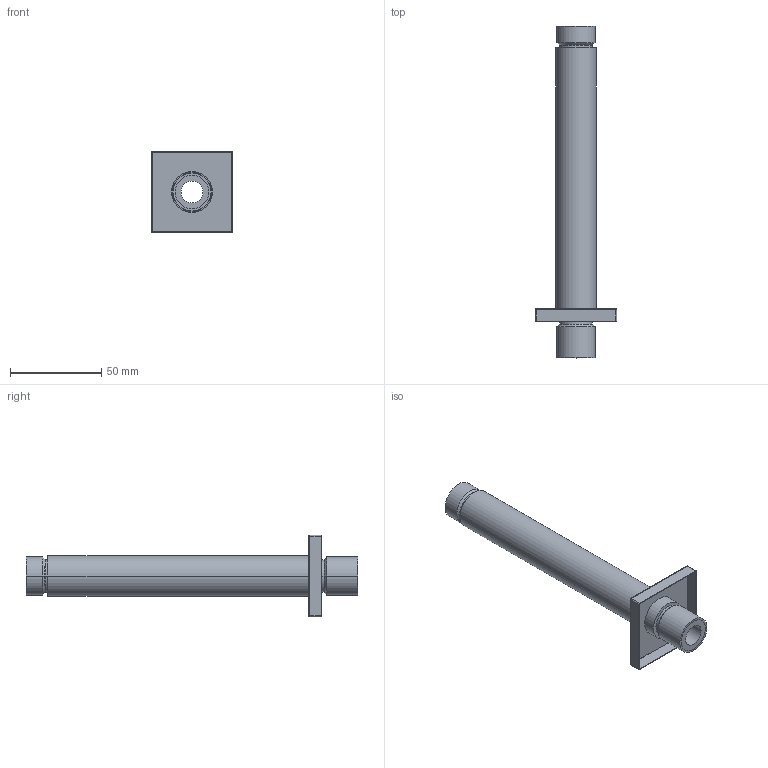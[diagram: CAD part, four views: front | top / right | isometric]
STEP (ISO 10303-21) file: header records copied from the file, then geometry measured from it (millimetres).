
FILE_DESCRIPTION((''),'2;1');
FILE_NAME('7524_BRACCIO_DOCCIA_SOFFITTO','2015-05-04T',('ivanv'),(''),'PRO/ENGINEER BY PARAMETRIC TECHNOLOGY CORPORATION, 2012130','PRO/ENGINEER BY PARAMETRIC TECHNOLOGY CORPORATION, 2012130','');
FILE_SCHEMA(('CONFIG_CONTROL_DESIGN'));
Length unit declared in the file: millimetre
Products named in the file (1): 7524_BRACCIO_DOCCIA_SOFFITTO
Bounding box: 44.5 x 182 x 44.5 mm (x, y, z)
Volume: 48106.2 mm3; surface area: 27288.8 mm2
Topology: 2 solids, 4 shells, 49 faces, 106 edges, 64 vertices
Faces by surface type: cylinder 26, plane 15, cone 4, sphere 4
Entity records: 1379 total; most frequent: DIRECTION 258, CARTESIAN_POINT 220, ORIENTED_EDGE 204, EDGE_CURVE 106, AXIS2_PLACEMENT_3D 102, VERTEX_POINT 64, EDGE_LOOP 56, VECTOR 54
